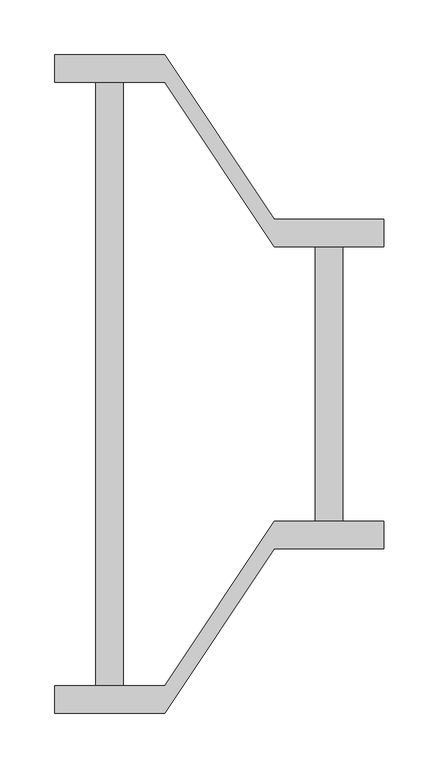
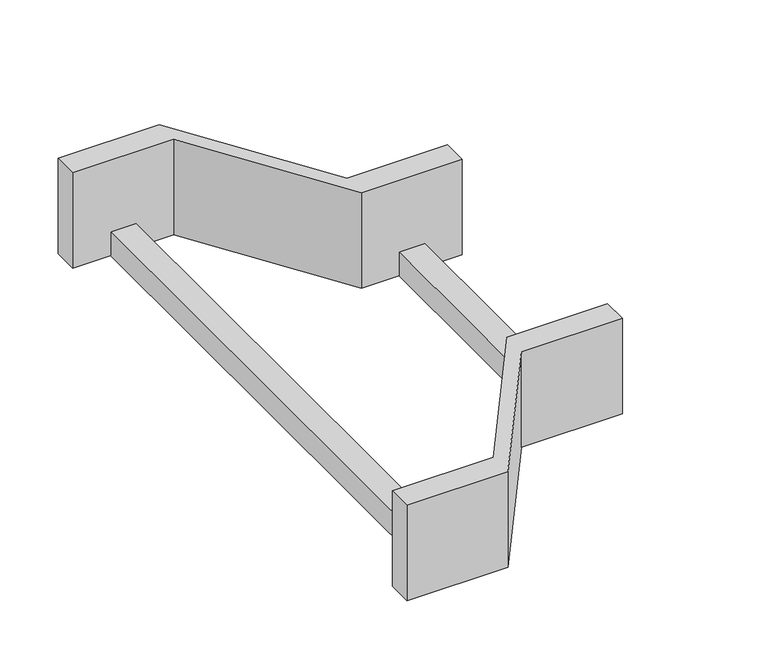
"""IFC4 building model written with IfcOpenShell, lengths in millimetres: cable carrier fitting geometry, 61_CTF_kabelgoot_open_verloop : verloopstuk, standaard."""

from ifc_helpers import new_model, si_unit, frame, origin, place, context, project, spatial, polyline, outline, extrude, source, transform, mapped, element, save


def cable_carrier_fitting_04c8f7b9(model_context):
    return source(origin(), model_context, "Body", "SweptSolid", [
        extrude(outline(polyline([(0.0, -300.0), (0.0, -275.0), (100.0, -275.0), (200.0, -125.0), (300.0, -125.0), (300.0, -150.0), (200.0, -150.0), (100.0, -300.0), (0.0, -300.0)])), frame((0.0, 0.0, -50.0), z_axis=(0.0, 0.0, 1.0), x_axis=(1.0, 0.0, 0.0)), (0.0, 0.0, 1.0), 100.0),
        extrude(outline(polyline([(0.0, 275.0), (0.0, 300.0), (100.0, 300.0), (200.0, 150.0), (300.0, 150.0), (300.0, 125.0), (200.0, 125.0), (100.0, 275.0), (0.0, 275.0)])), frame((0.0, 0.0, -50.0), z_axis=(0.0, 0.0, 1.0), x_axis=(1.0, 0.0, 0.0)), (0.0, 0.0, 1.0), 100.0),
        extrude(outline(polyline([(237.5, 125.0), (262.5, 125.0), (262.5, -125.0), (237.5, -125.0), (237.5, 125.0)])), frame((0.0, 0.0, -50.0), z_axis=(0.0, 0.0, 1.0), x_axis=(1.0, 0.0, 0.0)), (0.0, 0.0, 1.0), 25.0),
        extrude(outline(polyline([(37.5, 275.0), (62.5, 275.0), (62.5, -275.0), (37.5, -275.0), (37.5, 275.0)])), frame((0.0, 0.0, -50.0), z_axis=(0.0, 0.0, 1.0), x_axis=(1.0, 0.0, 0.0)), (0.0, 0.0, 1.0), 25.0),
    ])


if __name__ == "__main__":
    model = new_model("IFC4")
    model_context = context("Model", 3, world=origin())
    ifc_project = project(units=[si_unit("LENGTHUNIT", "METRE", prefix="MILLI")], contexts=[model_context])
    site = spatial("IfcSite", under=ifc_project)
    building = spatial("IfcBuilding", under=site)
    placement = place(None, origin())
    cable_carrier_fitting_shape = cable_carrier_fitting_04c8f7b9(model_context)
    element("IfcCableCarrierFitting", 1, ObjectType="61_CTF_kabelgoot_open_verloop : verloopstuk, standaard", at=placement, inside=building, context=model_context, shape_type="MappedRepresentation", body=[
        mapped(cable_carrier_fitting_shape, transform((0.0, 0.0, 0.0), x_axis=(1.0, 0.0, 0.0), y_axis=(0.0, 1.0, 0.0), z_axis=(0.0, 0.0, 1.0))),
    ])
    save(model, "model.ifc")
